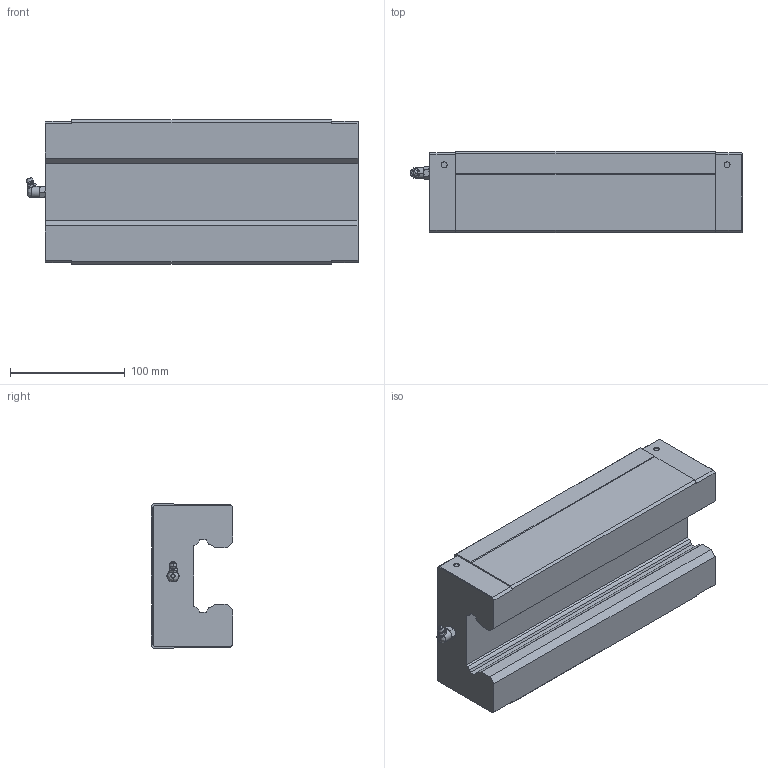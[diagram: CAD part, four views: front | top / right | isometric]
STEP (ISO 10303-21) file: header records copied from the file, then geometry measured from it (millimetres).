
FILE_DESCRIPTION (( 'STEP AP203' ), '1' );
FILE_NAME ('SHS65LV.step', '2017-09-18T07:14:48', ( '' ), ( '' ), 'SwSTEP 2.0', 'SolidWorks 2017', '' );
FILE_SCHEMA (( 'CONFIG_CONTROL_DESIGN' ));
Length unit declared in the file: millimetre
Products named in the file (1): SHS65LV
Bounding box: 288.7 x 71 x 126 mm (x, y, z)
Volume: 1880745.7 mm3; surface area: 146167.3 mm2
Topology: 2 solids, 2 shells, 154 faces, 398 edges, 246 vertices
Faces by surface type: plane 83, cone 40, cylinder 22, bspline 9
Entity records: 4967 total; most frequent: CARTESIAN_POINT 1256, ORIENTED_EDGE 766, DIRECTION 732, EDGE_CURVE 383, VECTOR 248, LINE 248, VERTEX_POINT 246, AXIS2_PLACEMENT_3D 242
